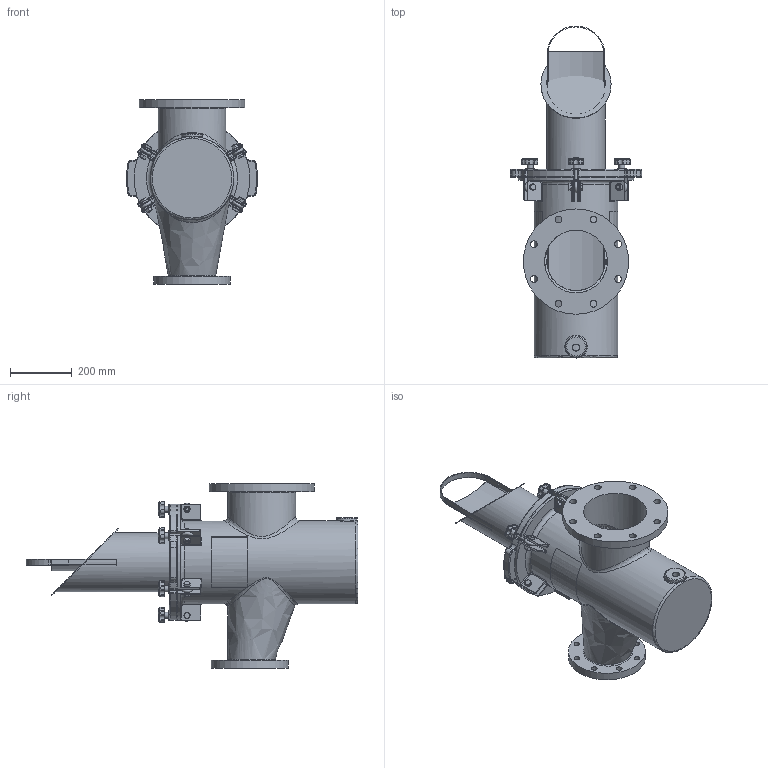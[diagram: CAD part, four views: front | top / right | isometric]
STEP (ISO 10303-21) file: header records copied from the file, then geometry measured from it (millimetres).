
FILE_DESCRIPTION(/* description */ ('200MM X 125MM FIBERGLASS STRAINER BODY'),/* implementation_level */ '2;1');
FILE_NAME(/* name */ 'C:\Users\r.kommineni.ext\Desktop\NB\CAD\Workspace\FG Reducing Strainer\Guardian FG Reducing H&L Strainer (Metric)_CLEARANCE VOLUME\STRAINER H&L 200MM X 125MM.stp',/* time_stamp */ '2017-06-09T13:33:59-04:00',/* author */ ('r.kommineni.ext'),/* organization */ (''),/* preprocessor_version */ 'ST-DEVELOPER v16.1',/* originating_system */ 'Autodesk Inventor 2016',/* authorisation */ '');
FILE_SCHEMA (('CONFIG_CONTROL_DESIGN'));
Length unit declared in the file: inch
Products named in the file (19): NBFGBODY08X05MM; 150NBCVR48R1; 150NBGSK48R1; Perforated Basket 10in; Bride (Ring) 10in; Baffle 10in; Handle 10in; Bottom Strainer 10in; Nut- 1_2  UNC; Bolt-1_2 x 1 1_2  UNC; EyeBolt; Washer; Knob M10; Securing Assembly For FG without Brace; Label for 10.625 inch (Right); Label for 10.625 inch (Left); NBBSK08T316_clearance; NBBSK08T316_clearance_1; STRAINER H&L 200MM X 125MM
Assembly tree (23 placements, depth 3):
  STRAINER H&L 200MM X 125MM
    NBFGBODY08X05MM
    150NBCVR48R1
    150NBGSK48R1
    NBBSK08T316_clearance_1
      Perforated Basket 10in
      Bride (Ring) 10in
      Baffle 10in
      Handle 10in
      Bottom Strainer 10in
      NBBSK08T316_clearance
    Securing Assembly For FG without Brace  x6
      Nut- 1_2  UNC
      Bolt-1_2 x 1 1_2  UNC
      EyeBolt
      Washer
      Knob M10
    Label for 10.625 inch (Right)
    Label for 10.625 inch (Left)
Bounding box: 424.18 x 1073.15 x 596.9 mm (x, y, z)
Volume: 11983686.7 mm3; surface area: 3264835.6 mm2
Topology: 40 solids, 45 shells, 1296 faces, 2993 edges, 1777 vertices
Faces by surface type: cylinder 475, plane 344, cone 138, torus 124, bspline 113, sphere 102
Full cylindrical faces by diameter (mm): 3.175 x10, 6.35 x2, 8.382 x6, 9.525 x12, 10.592 x6, 12.7 x6, 15.875 x12, 17.78 x8, 19 x12, 19.05 x6, 22.098 x8, 22.809 x1, 31.75 x6, 68.263 x1, 187.325 x2, 190.5 x2, 203.2 x1, 219.075 x1, 248.92 x1, 254 x2, 266.7 x1, 269.875 x1, 276.225 x1, 311.15 x1, 317.5 x1, 340.36 x1
Entity records: 27811 total; most frequent: CARTESIAN_POINT 11169, DIRECTION 3447, ORIENTED_EDGE 3098, EDGE_CURVE 1575, AXIS2_PLACEMENT_3D 1443, VERTEX_POINT 1002, EDGE_LOOP 883, CIRCLE 726
